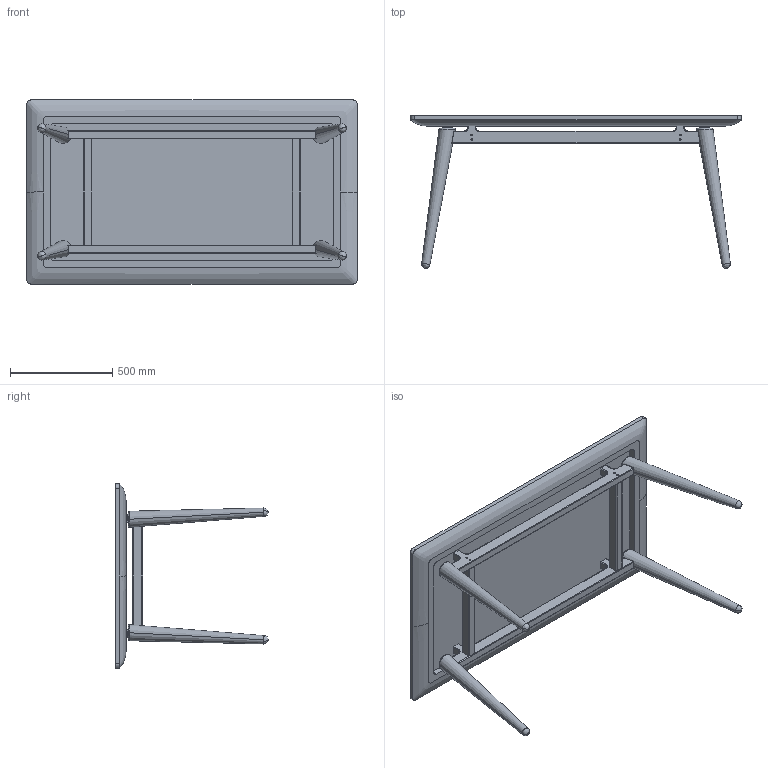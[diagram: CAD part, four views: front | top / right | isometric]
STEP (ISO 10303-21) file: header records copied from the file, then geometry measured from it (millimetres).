
FILE_DESCRIPTION (( 'STEP AP214' ), '1' );
FILE_NAME ('evolve table.STEP', '2020-02-07T13:14:42', ( '' ), ( '' ), 'SwSTEP 2.0', 'SolidWorks 2016', '' );
FILE_SCHEMA (( 'AUTOMOTIVE_DESIGN' ));
Length unit declared in the file: millimetre
Products named in the file (1): evolve table
Bounding box: 1615 x 745 x 900 mm (x, y, z)
Volume: 56668896.1 mm3; surface area: 4421643.8 mm2
Topology: 17 solids, 17 shells, 301 faces, 694 edges, 436 vertices
Faces by surface type: cylinder 120, plane 79, bspline 66, torus 16, cone 12, sphere 8
Entity records: 15380 total; most frequent: CARTESIAN_POINT 6792, ORIENTED_EDGE 1372, DIRECTION 1328, EDGE_CURVE 686, AXIS2_PLACEMENT_3D 544, VERTEX_POINT 436, EDGE_LOOP 334, CIRCLE 308
